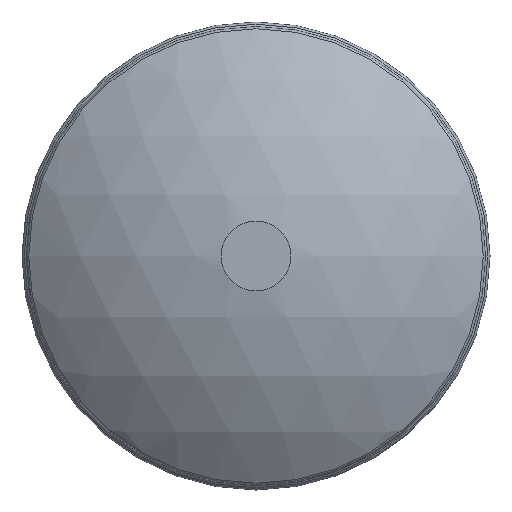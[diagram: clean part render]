
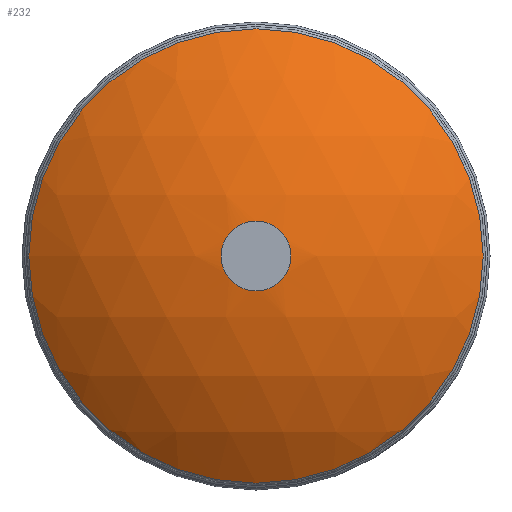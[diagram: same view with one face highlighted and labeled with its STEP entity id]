
A CAD part, left-side view. The second image highlights one B-rep face of the part: STEP entity #232.
In plain terms, the highlighted spherical face has radius 258.826 mm.
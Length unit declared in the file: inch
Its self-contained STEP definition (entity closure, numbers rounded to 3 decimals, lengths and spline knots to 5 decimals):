
#45=FACE_BOUND('',#75,.T.);
#47=SPHERICAL_SURFACE('',#278,10.19);
#62=FACE_OUTER_BOUND('',#74,.T.);
#74=EDGE_LOOP('',(#185));
#75=EDGE_LOOP('',(#186));
#90=CIRCLE('',#259,0.95);
#93=CIRCLE('',#264,6.18927);
#112=VERTEX_POINT('',#408);
#114=VERTEX_POINT('',#415);
#131=EDGE_CURVE('',#112,#112,#90,.T.);
#134=EDGE_CURVE('',#114,#114,#93,.T.);
#185=ORIENTED_EDGE('',*,*,#134,.F.);
#186=ORIENTED_EDGE('',*,*,#131,.T.);
#232=ADVANCED_FACE('',(#62,#45),#47,.T.);
#259=AXIS2_PLACEMENT_3D('',#410,#311,#312);
#264=AXIS2_PLACEMENT_3D('',#417,#321,#322);
#278=AXIS2_PLACEMENT_3D('',#440,#351,#352);
#311=DIRECTION('center_axis',(1.,0.,0.));
#312=DIRECTION('ref_axis',(0.,0.,1.));
#321=DIRECTION('center_axis',(1.,0.,0.));
#322=DIRECTION('ref_axis',(0.,0.,-1.));
#351=DIRECTION('center_axis',(0.,0.,1.));
#352=DIRECTION('ref_axis',(-1.,0.,0.));
#408=CARTESIAN_POINT('',(0.04438,0.,-0.95));
#410=CARTESIAN_POINT('Origin',(0.04438,0.,
0.));
#415=CARTESIAN_POINT('',(2.095,-6.18927,0.));
#417=CARTESIAN_POINT('Origin',(2.095,0.,0.));
#440=CARTESIAN_POINT('Origin',(10.19,0.,0.));
